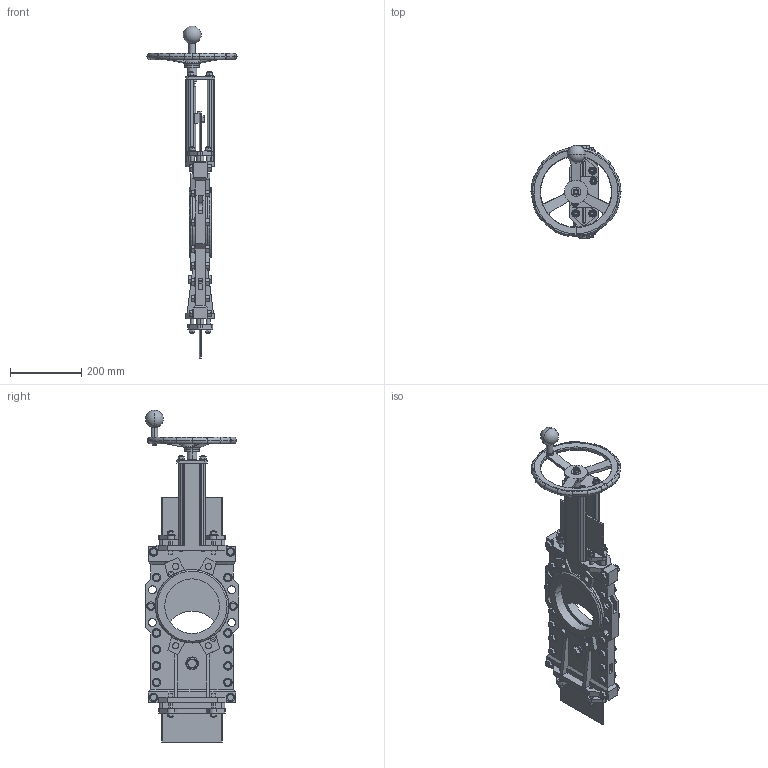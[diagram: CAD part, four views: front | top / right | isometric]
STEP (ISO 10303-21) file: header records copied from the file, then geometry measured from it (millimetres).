
FILE_DESCRIPTION(('STEP AP203'),'1');
FILE_NAME('G:/KONSTRUK/3-d block för CD/HG VALVE/HAND WHEEL/HG150-PN10-HW.stp','2012-12-03T09:28:44',(' '),(' '),'Spatial InterOp 3D',' ',' ');
FILE_SCHEMA(('CONFIG_CONTROL_DESIGN'));
Length unit declared in the file: millimetre
Products named in the file (1): 1
Bounding box: 252 x 260.31 x 928.99 mm (x, y, z)
Volume: 4725739.4 mm3; surface area: 1111385.8 mm2
Topology: 1 solids, 16 shells, 2435 faces, 5750 edges, 3584 vertices
Faces by surface type: plane 931, cone 775, cylinder 671, torus 50, bspline 6, sphere 2
Entity records: 76944 total; most frequent: CARTESIAN_POINT 20752, DIRECTION 12015, ORIENTED_EDGE 11476, EDGE_CURVE 5738, AXIS2_PLACEMENT_3D 4874, VERTEX_POINT 3584, EDGE_LOOP 2776, ADVANCED_FACE 2435
